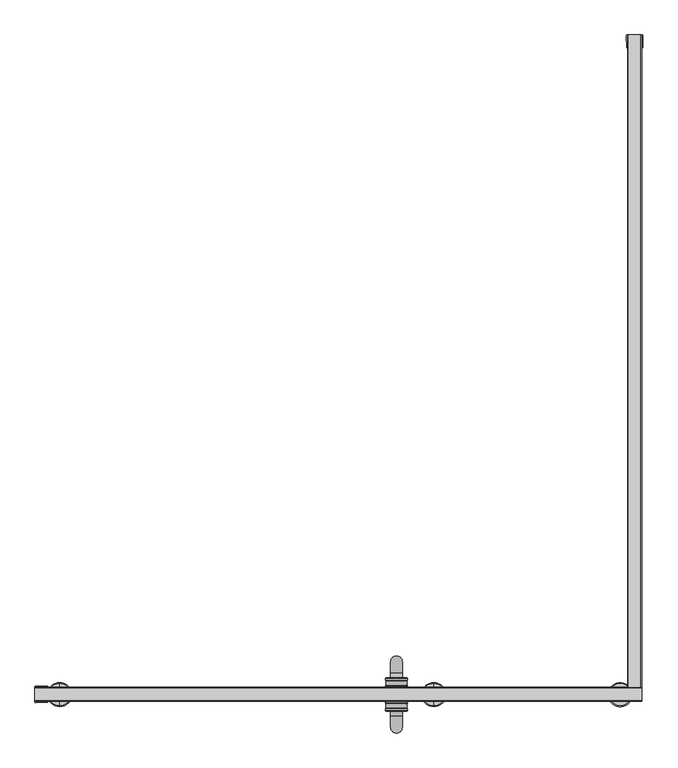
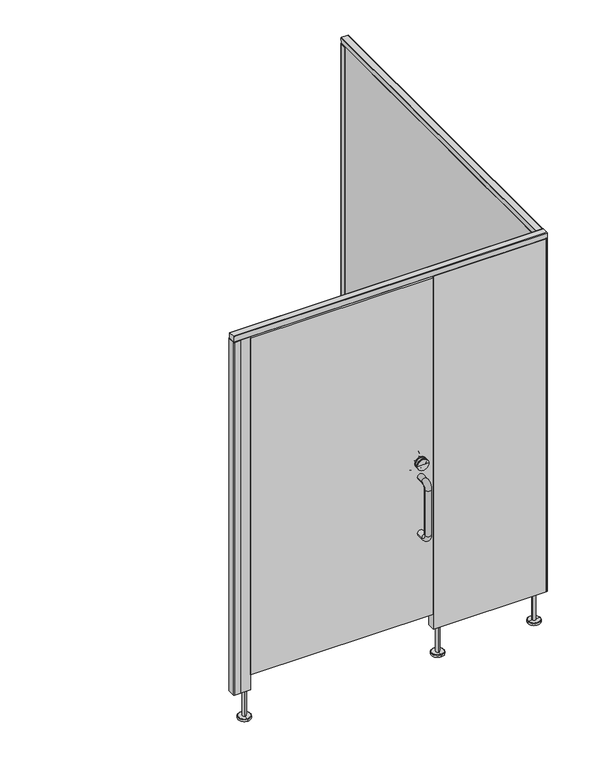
"""IFC4 building model written with IfcOpenShell, lengths in millimetres: proxy geometry, Partition_EuroStyle-Bradley_Corp-ADA-STD_Stall_-LOFT : Partition_EuroStyle-Bradley_Corp-ADA-STD_Stall_-LOFT."""

from ifc_helpers import new_model, si_unit, point, frame, frame_2d, origin, place, context, project, spatial, polyline, circle_curve, ellipse_curve, trimmed, segment, composite_curve, outline, extrude, source, transform, mapped, element, save
from ifc_brep_helpers import plane_surface, cylinder_surface, revolved_surface, advanced_brep


def specialty_equipment_e34e834b(model_context):
    return source(origin(), model_context, "Body", "SolidModel", [
        advanced_brep(
        [(1368.9703255, -1694.3996549, 150.0000008), (1386.9703248, -1694.3996549, 150.0000008), (1386.9703248, -1694.3996549, 12.0000001), (1368.9703255, -1694.3996549, 12.0000001), (1377.9703251, -1694.3996549, 150.0000008), (1346.9703262, -1694.3996549, 0.0), (1408.9703241, -1694.3996549, 0.0), (1377.9703251, -1694.3996549, 0.0), (1346.9703262, -1694.3996549, 10.0000001), (1408.9703241, -1694.3996549, 10.0000001), (1348.9727381, -1694.3996549, 12.0000001), (1406.9679122, -1694.3996549, 12.0000001)],
        [
            (0, 1, circle_curve(frame((1377.9703251, -1694.3996549, 150.0000008), z_axis=(0.0, 0.0, -1.0), x_axis=(1.0, 0.0, 0.0)), 8.9999997)),
            (1, 2),
            (2, 3, circle_curve(frame((1377.9703251, -1694.3996549, 12.0000001), z_axis=(0.0, 0.0, 1.0), x_axis=(1.0, 0.0, 0.0)), 8.9999997)),
            (3, 0),
            (1, 0, circle_curve(frame((1377.9703251, -1694.3996549, 150.0000008), z_axis=(0.0, 0.0, -1.0), x_axis=(1.0, 0.0, 0.0)), 8.9999997)),
            (3, 2, circle_curve(frame((1377.9703251, -1694.3996549, 12.0000001), z_axis=(0.0, 0.0, 1.0), x_axis=(1.0, 0.0, 0.0)), 8.9999997)),
            (4, 1),
            (0, 4),
            (5, 6, circle_curve(frame((1377.9703251, -1694.3996549, 0.0), z_axis=(0.0, 0.0, -1.0), x_axis=(1.0, 0.0, 0.0)), 30.9999989)),
            (6, 7),
            (7, 5),
            (6, 5, circle_curve(frame((1377.9703251, -1694.3996549, 0.0), z_axis=(0.0, 0.0, -1.0), x_axis=(1.0, 0.0, 0.0)), 30.9999989)),
            (8, 9, circle_curve(frame((1377.9703251, -1694.3996549, 10.0000001), z_axis=(0.0, 0.0, -1.0), x_axis=(1.0, 0.0, 0.0)), 30.9999989)),
            (9, 6),
            (5, 8),
            (9, 8, circle_curve(frame((1377.9703251, -1694.3996549, 10.0000001), z_axis=(0.0, 0.0, -1.0), x_axis=(1.0, 0.0, 0.0)), 30.9999989)),
            (10, 11, circle_curve(frame((1377.9703251, -1694.3996549, 12.0000001), z_axis=(0.0, 0.0, -1.0), x_axis=(1.0, 0.0, 0.0)), 28.997587)),
            (11, 9),
            (8, 10),
            (11, 10, circle_curve(frame((1377.9703251, -1694.3996549, 12.0000001), z_axis=(0.0, 0.0, -1.0), x_axis=(1.0, 0.0, 0.0)), 28.997587)),
            (2, 11),
            (10, 3),
        ],
        [
            cylinder_surface(frame((1377.9703251, -1694.3996549, 0.0), z_axis=(0.0, 0.0, 1.0), x_axis=(1.0, 0.0, 0.0)), 8.9999997),
            plane_surface(frame((1377.9703251, -1694.3996549, 150.0000008), z_axis=(0.0, 0.0, 1.0), x_axis=(1.0, 0.0, 0.0))),
            plane_surface(frame((1377.9703251, -1694.3996549, 0.0), z_axis=(0.0, 0.0, -1.0), x_axis=(1.0, 0.0, 0.0))),
            cylinder_surface(frame((1377.9703251, -1694.3996549, 0.0), z_axis=(0.0, 0.0, 1.0), x_axis=(1.0, 0.0, 0.0)), 30.9999989),
            revolved_surface(polyline([(1408.9703241, -1694.3996549, 10.0000001), (1406.9679122, -1694.3996549, 12.0000001)]), (1377.9703251, -1694.3996549, 0.0), (0.0, 0.0, 1.0)),
            plane_surface(frame((1377.9703251, -1694.3996549, 12.0000001), z_axis=(0.0, 0.0, 1.0), x_axis=(1.0, 0.0, 0.0))),
        ],
        [
            (0, [[1, 2, 3, 4]]),
            (0, [[5, -4, 6, -2]]),
            (1, [[7, -1, 8]]),
            (1, [[-8, -5, -7]]),
            (2, [[9, 10, 11]]),
            (2, [[12, -11, -10]]),
            (3, [[13, 14, -9, 15]]),
            (3, [[16, -15, -12, -14]]),
            (4, [[17, 18, -13, 19]]),
            (4, [[20, -19, -16, -18]]),
            (5, [[-3, 21, -17, 22]]),
            (5, [[-6, -22, -20, -21]]),
        ],
    ),
        advanced_brep(
        [(787.6, -1676.4, 975.0), (817.6, -1676.4, 975.0), (787.6, -1676.4, 679.0), (817.6, -1676.4, 679.0), (817.6, -1640.4, 975.0), (787.6, -1640.4, 975.0), (817.6, -1610.4, 945.0), (817.6, -1610.4, 709.0), (787.6, -1610.4, 709.0), (787.6, -1610.4, 945.0), (817.6, -1640.4, 679.0), (787.6, -1640.4, 679.0)],
        [
            (0, 1, circle_curve(frame((802.6, -1676.4, 975.0), z_axis=(0.0, -1.0, 0.0), x_axis=(1.0000000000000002, 0.0, 0.0)), 15.0)),
            (1, 0, circle_curve(frame((802.6, -1676.4, 975.0), z_axis=(0.0, -1.0, 0.0), x_axis=(1.0000000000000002, 0.0, 0.0)), 15.0)),
            (2, 3, circle_curve(frame((802.6, -1676.4, 679.0), z_axis=(0.0, -1.0, 0.0), x_axis=(1.0000000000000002, 0.0, 0.0)), 15.0)),
            (3, 2, circle_curve(frame((802.6, -1676.4, 679.0), z_axis=(0.0, -1.0, 0.0), x_axis=(1.0000000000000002, 0.0, 0.0)), 15.0)),
            (1, 4),
            (4, 5, circle_curve(frame((802.6, -1640.4, 975.0), z_axis=(0.0, -1.0, 0.0), x_axis=(1.0000000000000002, 0.0, 0.0)), 15.0)),
            (5, 0),
            (5, 4, circle_curve(frame((802.6, -1640.4, 975.0), z_axis=(0.0, -1.0, 0.0), x_axis=(1.0000000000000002, 0.0, 0.0)), 15.0)),
            (6, 7),
            (7, 8, circle_curve(frame((802.6, -1610.4, 709.0), z_axis=(0.0, 0.0, 1.0), x_axis=(1.0000000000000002, 0.0, 0.0)), 15.0)),
            (8, 9),
            (9, 6, circle_curve(frame((802.6, -1610.4, 945.0), z_axis=(0.0, 0.0, -1.0), x_axis=(1.0000000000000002, 0.0, 0.0)), 15.0)),
            (8, 7, circle_curve(frame((802.6, -1610.4, 709.0), z_axis=(0.0, 0.0, 1.0), x_axis=(1.0000000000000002, 0.0, 0.0)), 15.0)),
            (6, 9, circle_curve(frame((802.6, -1610.4, 945.0), z_axis=(0.0, 0.0, -1.0), x_axis=(1.0000000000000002, 0.0, 0.0)), 15.0)),
            (10, 3),
            (2, 11),
            (11, 10, circle_curve(frame((802.6, -1640.4, 679.0), z_axis=(0.0, -1.0, 0.0), x_axis=(1.0000000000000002, 0.0, 0.0)), 15.0)),
            (10, 11, circle_curve(frame((802.6, -1640.4, 679.0), z_axis=(0.0, -1.0, 0.0), x_axis=(1.0000000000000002, 0.0, 0.0)), 15.0)),
            (9, 5, circle_curve(frame((787.6, -1640.4, 945.0), z_axis=(1.0, 0.0, 0.0), x_axis=(0.0, 0.0, 1.0)), 30.0)),
            (4, 6, circle_curve(frame((817.6, -1640.4, 945.0), z_axis=(-1.0, 0.0, 0.0), x_axis=(0.0, 0.0, 1.0)), 30.0)),
            (11, 8, circle_curve(frame((787.6, -1640.4, 709.0), z_axis=(1.0, 0.0, 0.0), x_axis=(0.0, 1.0000000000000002, 0.0)), 30.0)),
            (7, 10, circle_curve(frame((817.6, -1640.4, 709.0), z_axis=(-1.0, 0.0, 0.0), x_axis=(0.0, 1.0000000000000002, 0.0)), 30.0)),
        ],
        [
            plane_surface(frame((802.6, -1676.4, 975.0), z_axis=(0.0, -1.0, 0.0), x_axis=(1.0, 0.0, 0.0))),
            plane_surface(frame((802.6, -1676.4, 679.0), z_axis=(0.0, -1.0, 0.0), x_axis=(1.0, 0.0, 0.0))),
            cylinder_surface(frame((802.6, -1676.4, 975.0), z_axis=(0.0, -1.0000000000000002, 0.0), x_axis=(1.0000000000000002, 0.0, 0.0)), 15.0),
            cylinder_surface(frame((802.6, -1610.4, 945.0), z_axis=(0.0, 0.0, 1.0), x_axis=(1.0000000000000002, 0.0, 0.0)), 15.0),
            cylinder_surface(frame((802.6, -1640.4, 679.0), z_axis=(0.0, 1.0000000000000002, 0.0), x_axis=(1.0000000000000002, 0.0, 0.0)), 15.0),
            revolved_surface(trimmed(ellipse_curve(frame((802.6, -1640.4, 975.0), z_axis=(0.0, 1.0000000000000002, 0.0), x_axis=(1.0000000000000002, 0.0, 0.0)), 15.0, 15.0), [point((787.6, -1640.4, 975.0))], [point((817.6, -1640.4, 975.0))], True, "CARTESIAN"), (802.6, -1640.4, 945.0), (1.0000000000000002, 0.0, 0.0)),
            revolved_surface(trimmed(ellipse_curve(frame((802.6, -1640.4, 975.0), z_axis=(0.0, 1.0000000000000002, 0.0), x_axis=(1.0000000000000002, 0.0, 0.0)), 15.0, 15.0), [point((817.6, -1640.4, 975.0))], [point((787.6, -1640.4, 975.0))], True, "CARTESIAN"), (802.6, -1640.4, 945.0), (1.0000000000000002, 0.0, 0.0)),
            revolved_surface(trimmed(ellipse_curve(frame((802.6, -1610.4, 709.0), z_axis=(0.0, 0.0, -1.0), x_axis=(1.0000000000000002, 0.0, 0.0)), 15.0, 15.0), [point((787.6, -1610.4, 709.0))], [point((817.6, -1610.4, 709.0))], True, "CARTESIAN"), (802.6, -1640.4, 709.0), (1.0000000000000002, 0.0, 0.0)),
            revolved_surface(trimmed(ellipse_curve(frame((802.6, -1610.4, 709.0), z_axis=(0.0, 0.0, -1.0), x_axis=(1.0000000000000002, 0.0, 0.0)), 15.0, 15.0), [point((817.6, -1610.4, 709.0))], [point((787.6, -1610.4, 709.0))], True, "CARTESIAN"), (802.6, -1640.4, 709.0), (1.0000000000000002, 0.0, 0.0)),
        ],
        [
            (0, [[1, 2]]),
            (1, [[3, 4]]),
            (2, [[5, 6, 7, -2]]),
            (2, [[-7, 8, -5, -1]]),
            (3, [[9, 10, 11, 12]]),
            (3, [[-11, 13, -9, 14]]),
            (4, [[15, -3, 16, 17]]),
            (4, [[-16, -4, -15, 18]]),
            (5, [[-12, 19, -6, 20]]),
            (6, [[-14, -20, -8, -19]]),
            (7, [[-17, 21, -10, 22]]),
            (8, [[-18, -22, -13, -21]]),
        ],
    ),
        advanced_brep(
        [(787.6, -1712.4203251, 975.0), (817.6, -1712.4203251, 975.0), (787.6, -1712.4203251, 679.0), (817.6, -1712.4203251, 679.0), (787.6, -1748.4203251, 975.0), (817.6, -1748.4203251, 975.0), (817.6, -1778.4203251, 945.0), (787.6, -1778.4203251, 945.0), (787.6, -1778.4203251, 709.0), (817.6, -1778.4203251, 709.0), (817.6, -1748.4203251, 679.0), (787.6, -1748.4203251, 679.0)],
        [
            (0, 1, circle_curve(frame((802.6, -1712.4203251, 975.0), z_axis=(0.0, 1.0, 0.0), x_axis=(1.0000000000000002, 0.0, 0.0)), 15.0)),
            (1, 0, circle_curve(frame((802.6, -1712.4203251, 975.0), z_axis=(0.0, 1.0, 0.0), x_axis=(1.0000000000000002, 0.0, 0.0)), 15.0)),
            (2, 3, circle_curve(frame((802.6, -1712.4203251, 679.0), z_axis=(0.0, 1.0, 0.0), x_axis=(1.0000000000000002, 0.0, 0.0)), 15.0)),
            (3, 2, circle_curve(frame((802.6, -1712.4203251, 679.0), z_axis=(0.0, 1.0, 0.0), x_axis=(1.0000000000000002, 0.0, 0.0)), 15.0)),
            (0, 4),
            (4, 5, circle_curve(frame((802.6, -1748.4203251, 975.0), z_axis=(0.0, 1.0, 0.0), x_axis=(1.0000000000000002, 0.0, 0.0)), 15.0)),
            (5, 1),
            (5, 4, circle_curve(frame((802.6, -1748.4203251, 975.0), z_axis=(0.0, 1.0, 0.0), x_axis=(1.0000000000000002, 0.0, 0.0)), 15.0)),
            (6, 7, circle_curve(frame((802.6, -1778.4203251, 945.0), z_axis=(0.0, 0.0, -1.0), x_axis=(1.0000000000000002, 0.0, 0.0)), 15.0)),
            (7, 8),
            (8, 9, circle_curve(frame((802.6, -1778.4203251, 709.0), z_axis=(0.0, 0.0, 1.0), x_axis=(1.0000000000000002, 0.0, 0.0)), 15.0)),
            (9, 6),
            (7, 6, circle_curve(frame((802.6, -1778.4203251, 945.0), z_axis=(0.0, 0.0, -1.0), x_axis=(1.0000000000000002, 0.0, 0.0)), 15.0)),
            (9, 8, circle_curve(frame((802.6, -1778.4203251, 709.0), z_axis=(0.0, 0.0, 1.0), x_axis=(1.0000000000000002, 0.0, 0.0)), 15.0)),
            (10, 11, circle_curve(frame((802.6, -1748.4203251, 679.0), z_axis=(0.0, 1.0, 0.0), x_axis=(1.0000000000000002, 0.0, 0.0)), 15.0)),
            (11, 2),
            (3, 10),
            (11, 10, circle_curve(frame((802.6, -1748.4203251, 679.0), z_axis=(0.0, 1.0, 0.0), x_axis=(1.0000000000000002, 0.0, 0.0)), 15.0)),
            (6, 5, circle_curve(frame((817.6, -1748.4203251, 945.0), z_axis=(-1.0, 0.0, 0.0), x_axis=(0.0, 0.0, 1.0)), 30.0)),
            (4, 7, circle_curve(frame((787.6, -1748.4203251, 945.0), z_axis=(1.0, 0.0, 0.0), x_axis=(0.0, 0.0, 1.0)), 30.0)),
            (10, 9, circle_curve(frame((817.6, -1748.4203251, 709.0), z_axis=(-1.0, 0.0, 0.0), x_axis=(0.0, -1.0000000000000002, 0.0)), 30.0)),
            (8, 11, circle_curve(frame((787.6, -1748.4203251, 709.0), z_axis=(1.0, 0.0, 0.0), x_axis=(0.0, -1.0000000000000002, 0.0)), 30.0)),
        ],
        [
            plane_surface(frame((802.6, -1712.4203251, 975.0), z_axis=(0.0, 1.0, 0.0), x_axis=(1.0, 0.0, 0.0))),
            plane_surface(frame((802.6, -1712.4203251, 679.0), z_axis=(0.0, 1.0, 0.0), x_axis=(1.0, 0.0, 0.0))),
            cylinder_surface(frame((802.6, -1712.4203251, 975.0), z_axis=(0.0, 1.0000000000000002, 0.0), x_axis=(1.0000000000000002, 0.0, 0.0)), 15.0),
            cylinder_surface(frame((802.6, -1778.4203251, 945.0), z_axis=(0.0, 0.0, 1.0), x_axis=(1.0000000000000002, 0.0, 0.0)), 15.0),
            cylinder_surface(frame((802.6, -1748.4203251, 679.0), z_axis=(0.0, -1.0000000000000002, 0.0), x_axis=(1.0000000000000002, 0.0, 0.0)), 15.0),
            revolved_surface(trimmed(ellipse_curve(frame((802.6, -1748.4203251, 975.0), z_axis=(0.0, 1.0000000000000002, 0.0), x_axis=(1.0000000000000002, 0.0, 0.0)), 15.0, 15.0), [point((787.6, -1748.4203251, 975.0))], [point((817.6, -1748.4203251, 975.0))], True, "CARTESIAN"), (802.6, -1748.4203251, 945.0), (1.0000000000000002, 0.0, 0.0)),
            revolved_surface(trimmed(ellipse_curve(frame((802.6, -1748.4203251, 975.0), z_axis=(0.0, 1.0000000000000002, 0.0), x_axis=(1.0000000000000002, 0.0, 0.0)), 15.0, 15.0), [point((817.6, -1748.4203251, 975.0))], [point((787.6, -1748.4203251, 975.0))], True, "CARTESIAN"), (802.6, -1748.4203251, 945.0), (1.0000000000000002, 0.0, 0.0)),
            revolved_surface(trimmed(ellipse_curve(frame((802.6, -1778.4203251, 709.0), z_axis=(0.0, 0.0, 1.0), x_axis=(1.0000000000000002, 0.0, 0.0)), 15.0, 15.0), [point((787.6, -1778.4203251, 709.0))], [point((817.6, -1778.4203251, 709.0))], True, "CARTESIAN"), (802.6, -1748.4203251, 709.0), (1.0000000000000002, 0.0, 0.0)),
            revolved_surface(trimmed(ellipse_curve(frame((802.6, -1778.4203251, 709.0), z_axis=(0.0, 0.0, 1.0), x_axis=(1.0000000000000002, 0.0, 0.0)), 15.0, 15.0), [point((817.6, -1778.4203251, 709.0))], [point((787.6, -1778.4203251, 709.0))], True, "CARTESIAN"), (802.6, -1748.4203251, 709.0), (1.0000000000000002, 0.0, 0.0)),
        ],
        [
            (0, [[1, 2]]),
            (1, [[3, 4]]),
            (2, [[-1, 5, 6, 7]]),
            (2, [[-2, -7, 8, -5]]),
            (3, [[9, 10, 11, 12]]),
            (3, [[13, -12, 14, -10]]),
            (4, [[15, 16, -4, 17]]),
            (4, [[18, -17, -3, -16]]),
            (5, [[19, -6, 20, -9]]),
            (6, [[-20, -8, -19, -13]]),
            (7, [[21, -11, 22, -15]]),
            (8, [[-22, -14, -21, -18]]),
        ],
    ),
        advanced_brep(
        [(774.025, -1676.4203251, 1050.0), (831.175, -1676.4203251, 1050.0), (802.6, -1676.4203251, 1050.0), (774.025, -1671.6578251, 1050.0), (831.175, -1671.6578251, 1050.0), (774.025, -1652.6078251, 1050.0), (831.175, -1652.6078251, 1050.0), (831.175, -1657.3703251, 1050.0), (774.025, -1657.3703251, 1050.0), (829.5875, -1658.9578251, 1050.0), (775.6125, -1658.9578251, 1050.0), (829.5875, -1670.0703251, 1050.0), (775.6125, -1670.0703251, 1050.0), (802.6, -1651.0203251, 1050.0)],
        [
            (0, 1, circle_curve(frame((802.6, -1676.4203251, 1050.0), z_axis=(0.0, -1.0, 0.0), x_axis=(1.0000000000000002, 0.0, 0.0)), 28.575)),
            (1, 2),
            (2, 0),
            (1, 0, circle_curve(frame((802.6, -1676.4203251, 1050.0), z_axis=(0.0, -1.0, 0.0), x_axis=(1.0000000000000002, 0.0, 0.0)), 28.575)),
            (3, 4, circle_curve(frame((802.6, -1671.6578251, 1050.0), z_axis=(0.0, -1.0, 0.0), x_axis=(1.0000000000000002, 0.0, 0.0)), 28.575)),
            (4, 1),
            (0, 3),
            (4, 3, circle_curve(frame((802.6, -1671.6578251, 1050.0), z_axis=(0.0, -1.0, 0.0), x_axis=(1.0000000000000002, 0.0, 0.0)), 28.575)),
            (5, 6, circle_curve(frame((802.6, -1652.6078251, 1050.0), z_axis=(0.0, -1.0, 0.0), x_axis=(1.0000000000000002, 0.0, 0.0)), 28.575)),
            (6, 7),
            (7, 8, circle_curve(frame((802.6, -1657.3703251, 1050.0), z_axis=(0.0, 1.0, 0.0), x_axis=(1.0000000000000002, 0.0, 0.0)), 28.575)),
            (8, 5),
            (6, 5, circle_curve(frame((802.6, -1652.6078251, 1050.0), z_axis=(0.0, -1.0, 0.0), x_axis=(1.0000000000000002, 0.0, 0.0)), 28.575)),
            (8, 7, circle_curve(frame((802.6, -1657.3703251, 1050.0), z_axis=(0.0, 1.0, 0.0), x_axis=(1.0000000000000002, 0.0, 0.0)), 28.575)),
            (7, 9, circle_curve(frame((831.175, -1658.9578251, 1050.0), z_axis=(0.0, 0.0, 1.0), x_axis=(1.0000000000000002, 0.0, 0.0)), 1.5875)),
            (9, 10, circle_curve(frame((802.6, -1658.9578251, 1050.0), z_axis=(0.0, 1.0, 0.0), x_axis=(1.0000000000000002, 0.0, 0.0)), 26.9875)),
            (10, 8, circle_curve(frame((774.025, -1658.9578251, 1050.0), z_axis=(0.0, 0.0, 1.0), x_axis=(-1.0000000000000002, 0.0, 0.0)), 1.5875)),
            (10, 9, circle_curve(frame((802.6, -1658.9578251, 1050.0), z_axis=(0.0, 1.0, 0.0), x_axis=(1.0000000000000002, 0.0, 0.0)), 26.9875)),
            (9, 11),
            (11, 12, circle_curve(frame((802.6, -1670.0703251, 1050.0), z_axis=(0.0, 1.0, 0.0), x_axis=(1.0000000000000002, 0.0, 0.0)), 26.9875)),
            (12, 10),
            (12, 11, circle_curve(frame((802.6, -1670.0703251, 1050.0), z_axis=(0.0, 1.0, 0.0), x_axis=(1.0000000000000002, 0.0, 0.0)), 26.9875)),
            (11, 4, circle_curve(frame((831.175, -1670.0703251, 1050.0), z_axis=(0.0, 0.0, 1.0), x_axis=(1.0000000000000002, 0.0, 0.0)), 1.5875)),
            (3, 12, circle_curve(frame((774.025, -1670.0703251, 1050.0), z_axis=(0.0, 0.0, 1.0), x_axis=(-1.0000000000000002, 0.0, 0.0)), 1.5875)),
            (13, 6, circle_curve(frame((806.2941234, -1842.4948544, 1050.0), z_axis=(0.0, 0.0, -1.0), x_axis=(1.0000000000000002, 0.0, 0.0)), 191.5101613)),
            (5, 13, circle_curve(frame((798.9058766, -1842.4948544, 1050.0), z_axis=(0.0, 0.0, -1.0), x_axis=(-1.0000000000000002, 0.0, 0.0)), 191.5101613)),
        ],
        [
            plane_surface(frame((802.6, -1676.4203251, 1050.0), z_axis=(0.0, -1.0, 0.0), x_axis=(1.0, 0.0, 0.0))),
            cylinder_surface(frame((802.6, -1676.4203251, 1050.0), z_axis=(0.0, 1.0000000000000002, 0.0), x_axis=(1.0000000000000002, 0.0, 0.0)), 28.575),
            revolved_surface(trimmed(ellipse_curve(frame((831.175, -1658.9578251, 1050.0), z_axis=(0.0, 0.0, -1.0), x_axis=(1.0000000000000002, 0.0, 0.0)), 1.5875, 1.5875), [point((829.5875, -1658.9578251, 1050.0))], [point((831.175, -1657.3703251, 1050.0))], True, "CARTESIAN"), (802.6, -1676.4203251, 1050.0), (0.0, 1.0000000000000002, 0.0)),
            cylinder_surface(frame((802.6, -1676.4203251, 1050.0), z_axis=(0.0, 1.0000000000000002, 0.0), x_axis=(1.0000000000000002, 0.0, 0.0)), 26.9875),
            revolved_surface(trimmed(ellipse_curve(frame((831.175, -1670.0703251, 1050.0), z_axis=(0.0, 0.0, -1.0), x_axis=(1.0000000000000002, 0.0, 0.0)), 1.5875, 1.5875), [point((831.175, -1671.6578251, 1050.0))], [point((829.5875, -1670.0703251, 1050.0))], True, "CARTESIAN"), (802.6, -1676.4203251, 1050.0), (0.0, 1.0000000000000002, 0.0)),
            revolved_surface(trimmed(ellipse_curve(frame((806.2941234, -1842.4948544, 1050.0), z_axis=(0.0, 0.0, 1.0), x_axis=(1.0000000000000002, 0.0, 0.0)), 191.5101613, 191.5101613), [point((831.175, -1652.6078251, 1050.0))], [point((802.6, -1651.0203251, 1050.0))], True, "CARTESIAN"), (802.6, -1676.4203251, 1050.0), (0.0, 1.0000000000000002, 0.0)),
        ],
        [
            (0, [[1, 2, 3]]),
            (0, [[4, -3, -2]]),
            (1, [[5, 6, -1, 7]]),
            (1, [[8, -7, -4, -6]]),
            (1, [[9, 10, 11, 12]]),
            (1, [[13, -12, 14, -10]]),
            (2, [[-11, 15, 16, 17]]),
            (2, [[-14, -17, 18, -15]]),
            (3, [[-16, 19, 20, 21]]),
            (3, [[-18, -21, 22, -19]]),
            (4, [[-20, 23, -5, 24]]),
            (4, [[-22, -24, -8, -23]]),
            (5, [[25, -9, 26]]),
            (5, [[-26, -13, -25]]),
        ],
    ),
        advanced_brep(
        [(802.6, -1712.4203251, 1050.0), (831.175, -1712.4203251, 1050.0), (774.025, -1712.4203251, 1050.0), (831.175, -1717.1828251, 1050.0), (774.025, -1717.1828251, 1050.0), (774.025, -1731.4703251, 1050.0), (831.175, -1731.4703251, 1050.0), (831.175, -1736.2328251, 1050.0), (774.025, -1736.2328251, 1050.0), (775.6125, -1729.8828251, 1050.0), (829.5875, -1729.8828251, 1050.0), (775.6125, -1718.7703251, 1050.0), (829.5875, -1718.7703251, 1050.0), (802.6, -1737.8203251, 1050.0)],
        [
            (0, 1),
            (1, 2, circle_curve(frame((802.6, -1712.4203251, 1050.0), z_axis=(0.0, 1.0, 0.0), x_axis=(1.0000000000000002, 0.0, 0.0)), 28.575)),
            (2, 0),
            (2, 1, circle_curve(frame((802.6, -1712.4203251, 1050.0), z_axis=(0.0, 1.0, 0.0), x_axis=(1.0000000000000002, 0.0, 0.0)), 28.575)),
            (1, 3),
            (3, 4, circle_curve(frame((802.6, -1717.1828251, 1050.0), z_axis=(0.0, 1.0, 0.0), x_axis=(1.0000000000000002, 0.0, 0.0)), 28.575)),
            (4, 2),
            (4, 3, circle_curve(frame((802.6, -1717.1828251, 1050.0), z_axis=(0.0, 1.0, 0.0), x_axis=(1.0000000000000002, 0.0, 0.0)), 28.575)),
            (5, 6, circle_curve(frame((802.6, -1731.4703251, 1050.0), z_axis=(0.0, -1.0, 0.0), x_axis=(1.0000000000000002, 0.0, 0.0)), 28.575)),
            (6, 7),
            (7, 8, circle_curve(frame((802.6, -1736.2328251, 1050.0), z_axis=(0.0, 1.0, 0.0), x_axis=(1.0000000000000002, 0.0, 0.0)), 28.575)),
            (8, 5),
            (6, 5, circle_curve(frame((802.6, -1731.4703251, 1050.0), z_axis=(0.0, -1.0, 0.0), x_axis=(1.0000000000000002, 0.0, 0.0)), 28.575)),
            (8, 7, circle_curve(frame((802.6, -1736.2328251, 1050.0), z_axis=(0.0, 1.0, 0.0), x_axis=(1.0000000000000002, 0.0, 0.0)), 28.575)),
            (9, 10, circle_curve(frame((802.6, -1729.8828251, 1050.0), z_axis=(0.0, -1.0, 0.0), x_axis=(1.0000000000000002, 0.0, 0.0)), 26.9875)),
            (10, 6, circle_curve(frame((831.175, -1729.8828251, 1050.0), z_axis=(0.0, 0.0, 1.0), x_axis=(1.0000000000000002, 0.0, 0.0)), 1.5875)),
            (5, 9, circle_curve(frame((774.025, -1729.8828251, 1050.0), z_axis=(0.0, 0.0, 1.0), x_axis=(-1.0000000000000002, 0.0, 0.0)), 1.5875)),
            (10, 9, circle_curve(frame((802.6, -1729.8828251, 1050.0), z_axis=(0.0, -1.0, 0.0), x_axis=(1.0000000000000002, 0.0, 0.0)), 26.9875)),
            (11, 12, circle_curve(frame((802.6, -1718.7703251, 1050.0), z_axis=(0.0, -1.0, 0.0), x_axis=(1.0000000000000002, 0.0, 0.0)), 26.9875)),
            (12, 10),
            (9, 11),
            (12, 11, circle_curve(frame((802.6, -1718.7703251, 1050.0), z_axis=(0.0, -1.0, 0.0), x_axis=(1.0000000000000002, 0.0, 0.0)), 26.9875)),
            (3, 12, circle_curve(frame((831.175, -1718.7703251, 1050.0), z_axis=(0.0, 0.0, 1.0), x_axis=(1.0000000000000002, 0.0, 0.0)), 1.5875)),
            (11, 4, circle_curve(frame((774.025, -1718.7703251, 1050.0), z_axis=(0.0, 0.0, 1.0), x_axis=(-1.0000000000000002, 0.0, 0.0)), 1.5875)),
            (7, 13, circle_curve(frame((806.2941234, -1546.3457959, 1050.0), z_axis=(0.0, 0.0, -1.0), x_axis=(1.0000000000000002, 0.0, 0.0)), 191.5101613)),
            (13, 8, circle_curve(frame((798.9058766, -1546.3457959, 1050.0), z_axis=(0.0, 0.0, -1.0), x_axis=(-1.0000000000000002, 0.0, 0.0)), 191.5101613)),
        ],
        [
            plane_surface(frame((802.6, -1712.4203251, 1050.0), z_axis=(0.0, 1.0, 0.0), x_axis=(1.0, 0.0, 0.0))),
            cylinder_surface(frame((802.6, -1712.4203251, 1050.0), z_axis=(0.0, 1.0000000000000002, 0.0), x_axis=(1.0000000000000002, 0.0, 0.0)), 28.575),
            revolved_surface(trimmed(ellipse_curve(frame((831.175, -1729.8828251, 1050.0), z_axis=(0.0, 0.0, -1.0), x_axis=(1.0000000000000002, 0.0, 0.0)), 1.5875, 1.5875), [point((831.175, -1731.4703251, 1050.0))], [point((829.5875, -1729.8828251, 1050.0))], True, "CARTESIAN"), (802.6, -1712.4203251, 1050.0), (0.0, 1.0000000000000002, 0.0)),
            cylinder_surface(frame((802.6, -1712.4203251, 1050.0), z_axis=(0.0, 1.0000000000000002, 0.0), x_axis=(1.0000000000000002, 0.0, 0.0)), 26.9875),
            revolved_surface(trimmed(ellipse_curve(frame((831.175, -1718.7703251, 1050.0), z_axis=(0.0, 0.0, -1.0), x_axis=(1.0000000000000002, 0.0, 0.0)), 1.5875, 1.5875), [point((829.5875, -1718.7703251, 1050.0))], [point((831.175, -1717.1828251, 1050.0))], True, "CARTESIAN"), (802.6, -1712.4203251, 1050.0), (0.0, 1.0000000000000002, 0.0)),
            revolved_surface(trimmed(ellipse_curve(frame((806.2941234, -1546.3457959, 1050.0), z_axis=(0.0, 0.0, 1.0), x_axis=(1.0000000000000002, 0.0, 0.0)), 191.5101613, 191.5101613), [point((802.6, -1737.8203251, 1050.0))], [point((831.175, -1736.2328251, 1050.0))], True, "CARTESIAN"), (802.6, -1712.4203251, 1050.0), (0.0, 1.0000000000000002, 0.0)),
        ],
        [
            (0, [[1, 2, 3]]),
            (0, [[-3, 4, -1]]),
            (1, [[-2, 5, 6, 7]]),
            (1, [[-4, -7, 8, -5]]),
            (1, [[9, 10, 11, 12]]),
            (1, [[13, -12, 14, -10]]),
            (2, [[15, 16, -9, 17]]),
            (2, [[18, -17, -13, -16]]),
            (3, [[19, 20, -15, 21]]),
            (3, [[22, -21, -18, -20]]),
            (4, [[-6, 23, -19, 24]]),
            (4, [[-8, -24, -22, -23]]),
            (5, [[-11, 25, 26]]),
            (5, [[-14, -26, -25]]),
        ],
    ),
        extrude(outline(polyline([(-43.0032348, -1676.4), (866.1, -1676.4), (866.1, -1712.4203251), (-43.0032348, -1712.4203251), (-43.0032348, -1676.4)])), frame((0.0, 0.0, 228.6), z_axis=(0.0, 0.0, 1.0), x_axis=(1.0, 0.0, 0.0)), (0.0, 0.0, 1.0), 1767.4),
        advanced_brep(
        [(-63.5018313, -1685.4101629, 150.0000008), (-63.5018313, -1703.4101623, 150.0000008), (-63.5018313, -1703.4101623, 12.0000001), (-63.5018313, -1685.4101629, 12.0000001), (-63.5018313, -1694.4101626, 150.0000008), (-63.5018313, -1663.4101636, 0.0), (-63.5018313, -1725.4101615, 0.0), (-63.5018313, -1694.4101626, 0.0), (-63.5018313, -1663.4101636, 10.0000001), (-63.5018313, -1725.4101615, 10.0000001), (-63.5018313, -1665.4125756, 12.0000001), (-63.5018313, -1723.4077496, 12.0000001)],
        [
            (0, 1, circle_curve(frame((-63.5018313, -1694.4101626, 150.0000008), z_axis=(0.0, 0.0, -1.0), x_axis=(0.0, -1.0, 0.0)), 8.9999997)),
            (1, 2),
            (2, 3, circle_curve(frame((-63.5018313, -1694.4101626, 12.0000001), z_axis=(0.0, 0.0, 1.0), x_axis=(0.0, -1.0, 0.0)), 8.9999997)),
            (3, 0),
            (1, 0, circle_curve(frame((-63.5018313, -1694.4101626, 150.0000008), z_axis=(0.0, 0.0, -1.0), x_axis=(0.0, -1.0, 0.0)), 8.9999997)),
            (3, 2, circle_curve(frame((-63.5018313, -1694.4101626, 12.0000001), z_axis=(0.0, 0.0, 1.0), x_axis=(0.0, -1.0, 0.0)), 8.9999997)),
            (4, 1),
            (0, 4),
            (5, 6, circle_curve(frame((-63.5018313, -1694.4101626, 0.0), z_axis=(0.0, 0.0, -1.0), x_axis=(0.0, -1.0, 0.0)), 30.9999989)),
            (6, 7),
            (7, 5),
            (6, 5, circle_curve(frame((-63.5018313, -1694.4101626, 0.0), z_axis=(0.0, 0.0, -1.0), x_axis=(0.0, -1.0, 0.0)), 30.9999989)),
            (8, 9, circle_curve(frame((-63.5018313, -1694.4101626, 10.0000001), z_axis=(0.0, 0.0, -1.0), x_axis=(0.0, -1.0, 0.0)), 30.9999989)),
            (9, 6),
            (5, 8),
            (9, 8, circle_curve(frame((-63.5018313, -1694.4101626, 10.0000001), z_axis=(0.0, 0.0, -1.0), x_axis=(0.0, -1.0, 0.0)), 30.9999989)),
            (10, 11, circle_curve(frame((-63.5018313, -1694.4101626, 12.0000001), z_axis=(0.0, 0.0, -1.0), x_axis=(0.0, -1.0, 0.0)), 28.997587)),
            (11, 9),
            (8, 10),
            (11, 10, circle_curve(frame((-63.5018313, -1694.4101626, 12.0000001), z_axis=(0.0, 0.0, -1.0), x_axis=(0.0, -1.0, 0.0)), 28.997587)),
            (2, 11),
            (10, 3),
        ],
        [
            cylinder_surface(frame((-63.5018313, -1694.4101626, 0.0), z_axis=(0.0, 0.0, 1.0), x_axis=(0.0, -1.0, 0.0)), 8.9999997),
            plane_surface(frame((-63.5018313, -1694.4101626, 150.0000008), z_axis=(0.0, 0.0, 1.0), x_axis=(0.0, -1.0, 0.0))),
            plane_surface(frame((-63.5018313, -1694.4101626, 0.0), z_axis=(0.0, 0.0, -1.0), x_axis=(0.0, -1.0, 0.0))),
            cylinder_surface(frame((-63.5018313, -1694.4101626, 0.0), z_axis=(0.0, 0.0, 1.0), x_axis=(0.0, -1.0, 0.0)), 30.9999989),
            revolved_surface(polyline([(-63.5018313, -1725.4101615, 10.0000001), (-63.5018313, -1723.4077496, 12.0000001)]), (-63.5018313, -1694.4101626, 0.0), (0.0, 0.0, 1.0)),
            plane_surface(frame((-63.5018313, -1694.4101626, 12.0000001), z_axis=(0.0, 0.0, 1.0), x_axis=(0.0, -1.0, 0.0))),
        ],
        [
            (0, [[1, 2, 3, 4]]),
            (0, [[5, -4, 6, -2]]),
            (1, [[7, -1, 8]]),
            (1, [[-8, -5, -7]]),
            (2, [[9, 10, 11]]),
            (2, [[12, -11, -10]]),
            (3, [[13, 14, -9, 15]]),
            (3, [[16, -15, -12, -14]]),
            (4, [[17, 18, -13, 19]]),
            (4, [[20, -19, -16, -18]]),
            (5, [[-3, 21, -17, 22]]),
            (5, [[-6, -22, -20, -21]]),
        ],
    ),
        extrude(outline(composite_curve([segment(polyline([(-94.4999998, -1673.918717), (-94.4999998, -1675.4173026)]), True, "CONTINUOUS"), segment(trimmed(circle_curve(frame_2d((-95.4990918, -1675.4137352)), 0.9990984), [point((-94.4999998, -1675.4173026))], [point((-96.3787798, -1675.8873879))], False, "CARTESIAN"), True, "CONTINUOUS"), segment(polyline([(-96.3787798, -1675.8873879), (-103.6424298, -1675.7662779)]), True, "CONTINUOUS"), segment(trimmed(circle_curve(frame_2d((-104.4999449, -1675.248732)), 1.0015917), [point((-103.6424298, -1675.7662779))], [point((-105.3742398, -1675.7373979))], False, "CARTESIAN"), True, "CONTINUOUS"), segment(polyline([(-105.3742398, -1675.7373979), (-123.0104531, -1675.4433424)]), True, "CONTINUOUS"), segment(trimmed(circle_curve(frame_2d((-122.9997796, -1677.4435342)), 2.0002204), [point((-123.0104531, -1675.4433424))], [point((-125.0, -1677.4435342))], True, "CARTESIAN"), True, "CONTINUOUS"), segment(polyline([(-125.0, -1677.4435342), (-125.0, -1711.3278332)]), True, "CONTINUOUS"), segment(trimmed(circle_curve(frame_2d((-123.0009061, -1711.3768528)), 1.9996948), [point((-125.0, -1711.3278332))], [point((-123.0, -1713.3765475))], True, "CARTESIAN"), True, "CONTINUOUS"), segment(polyline([(-123.0, -1713.3765475), (-105.3739987, -1713.0824961)]), True, "CONTINUOUS"), segment(trimmed(circle_curve(frame_2d((-104.4999449, -1713.5715932)), 1.0015917), [point((-105.3739987, -1713.0824961))], [point((-103.6424298, -1713.0540473))], False, "CARTESIAN"), True, "CONTINUOUS"), segment(polyline([(-103.6424298, -1713.0540473), (-96.3787798, -1712.9329373)]), True, "CONTINUOUS"), segment(trimmed(circle_curve(frame_2d((-95.4990918, -1713.4065899)), 0.9990984), [point((-96.3787798, -1712.9329373))], [point((-94.4999998, -1713.4030225))], False, "CARTESIAN"), True, "CONTINUOUS"), segment(polyline([(-94.4999998, -1713.4030225), (-94.4999998, -1714.9016081), (-124.97082, -1715.4099473)]), True, "CONTINUOUS"), segment(trimmed(circle_curve(frame_2d((-124.97082, -1713.3807672)), 2.02918), [point((-124.97082, -1715.4099473))], [point((-127.0, -1713.3807672))], False, "CARTESIAN"), True, "CONTINUOUS"), segment(polyline([(-127.0, -1713.3807672), (-127.0, -1675.4395579)]), True, "CONTINUOUS"), segment(trimmed(circle_curve(frame_2d((-124.97082, -1675.4395579)), 2.02918), [point((-127.0, -1675.4395579))], [point((-124.97082, -1673.4103779))], False, "CARTESIAN"), True, "CONTINUOUS"), segment(polyline([(-124.97082, -1673.4103779), (-94.4999998, -1673.918717)]), True, "CONTINUOUS")], self_intersect=False)), frame((0.0, 0.0, 150.0), z_axis=(0.0, 0.0, 1.0), x_axis=(1.0, 0.0, 0.0)), (0.0, 0.0, 1.0), 1855.0),
        extrude(outline(polyline([(-117.000072, -1676.4), (-43.0032348, -1676.4), (-43.0032348, -1712.4203251), (-117.000072, -1712.4203251), (-117.000072, -1676.4)])), frame((0.0, 0.0, 150.0), z_axis=(0.0, 0.0, 1.0), x_axis=(1.0, 0.0, 0.0)), (0.0, 0.0, 1.0), 1855.0),
        advanced_brep(
        [(898.5233172, -1685.3996552, 150.0000008), (898.5233172, -1703.3996545, 150.0000008), (898.5233172, -1703.3996545, 12.0000001), (898.5233172, -1685.3996552, 12.0000001), (898.5233172, -1694.3996549, 150.0000008), (898.5233172, -1663.3996559, 0.0), (898.5233172, -1725.3996538, 0.0), (898.5233172, -1694.3996549, 0.0), (898.5233172, -1663.3996559, 10.0000001), (898.5233172, -1725.3996538, 10.0000001), (898.5233172, -1665.4020678, 12.0000001), (898.5233172, -1723.3972419, 12.0000001)],
        [
            (0, 1, circle_curve(frame((898.5233172, -1694.3996549, 150.0000008), z_axis=(0.0, 0.0, -1.0), x_axis=(0.0, -1.0, 0.0)), 8.9999997)),
            (1, 2),
            (2, 3, circle_curve(frame((898.5233172, -1694.3996549, 12.0000001), z_axis=(0.0, 0.0, 1.0), x_axis=(0.0, -1.0, 0.0)), 8.9999997)),
            (3, 0),
            (1, 0, circle_curve(frame((898.5233172, -1694.3996549, 150.0000008), z_axis=(0.0, 0.0, -1.0), x_axis=(0.0, -1.0, 0.0)), 8.9999997)),
            (3, 2, circle_curve(frame((898.5233172, -1694.3996549, 12.0000001), z_axis=(0.0, 0.0, 1.0), x_axis=(0.0, -1.0, 0.0)), 8.9999997)),
            (4, 1),
            (0, 4),
            (5, 6, circle_curve(frame((898.5233172, -1694.3996549, 0.0), z_axis=(0.0, 0.0, -1.0), x_axis=(0.0, -1.0, 0.0)), 30.9999989)),
            (6, 7),
            (7, 5),
            (6, 5, circle_curve(frame((898.5233172, -1694.3996549, 0.0), z_axis=(0.0, 0.0, -1.0), x_axis=(0.0, -1.0, 0.0)), 30.9999989)),
            (8, 9, circle_curve(frame((898.5233172, -1694.3996549, 10.0000001), z_axis=(0.0, 0.0, -1.0), x_axis=(0.0, -1.0, 0.0)), 30.9999989)),
            (9, 6),
            (5, 8),
            (9, 8, circle_curve(frame((898.5233172, -1694.3996549, 10.0000001), z_axis=(0.0, 0.0, -1.0), x_axis=(0.0, -1.0, 0.0)), 30.9999989)),
            (10, 11, circle_curve(frame((898.5233172, -1694.3996549, 12.0000001), z_axis=(0.0, 0.0, -1.0), x_axis=(0.0, -1.0, 0.0)), 28.997587)),
            (11, 9),
            (8, 10),
            (11, 10, circle_curve(frame((898.5233172, -1694.3996549, 12.0000001), z_axis=(0.0, 0.0, -1.0), x_axis=(0.0, -1.0, 0.0)), 28.997587)),
            (2, 11),
            (10, 3),
        ],
        [
            cylinder_surface(frame((898.5233172, -1694.3996549, 0.0), z_axis=(0.0, 0.0, 1.0), x_axis=(0.0, -1.0, 0.0)), 8.9999997),
            plane_surface(frame((898.5233172, -1694.3996549, 150.0000008), z_axis=(0.0, 0.0, 1.0), x_axis=(0.0, -1.0, 0.0))),
            plane_surface(frame((898.5233172, -1694.3996549, 0.0), z_axis=(0.0, 0.0, -1.0), x_axis=(0.0, -1.0, 0.0))),
            cylinder_surface(frame((898.5233172, -1694.3996549, 0.0), z_axis=(0.0, 0.0, 1.0), x_axis=(0.0, -1.0, 0.0)), 30.9999989),
            revolved_surface(polyline([(898.5233172, -1725.3996538, 10.0000001), (898.5233172, -1723.3972419, 12.0000001)]), (898.5233172, -1694.3996549, 0.0), (0.0, 0.0, 1.0)),
            plane_surface(frame((898.5233172, -1694.3996549, 12.0000001), z_axis=(0.0, 0.0, 1.0), x_axis=(0.0, -1.0, 0.0))),
        ],
        [
            (0, [[1, 2, 3, 4]]),
            (0, [[5, -4, 6, -2]]),
            (1, [[7, -1, 8]]),
            (1, [[-8, -5, -7]]),
            (2, [[9, 10, 11]]),
            (2, [[12, -11, -10]]),
            (3, [[13, 14, -9, 15]]),
            (3, [[16, -15, -12, -14]]),
            (4, [[17, 18, -13, 19]]),
            (4, [[20, -19, -16, -18]]),
            (5, [[-3, 21, -17, 22]]),
            (5, [[-6, -22, -20, -21]]),
        ],
    ),
        extrude(outline(composite_curve([segment(polyline([(1394.518717, -32.5000002), (1394.0103779, -2.02918)]), True, "CONTINUOUS"), segment(trimmed(circle_curve(frame_2d((1396.0395579, -2.02918)), 2.02918), [point((1394.0103779, -2.02918))], [point((1396.0395579, 0.0))], False, "CARTESIAN"), True, "CONTINUOUS"), segment(polyline([(1396.0395579, 0.0), (1433.9807672, 0.0)]), True, "CONTINUOUS"), segment(trimmed(circle_curve(frame_2d((1433.9807672, -2.02918)), 2.02918), [point((1433.9807672, 0.0))], [point((1436.0099473, -2.02918))], False, "CARTESIAN"), True, "CONTINUOUS"), segment(polyline([(1436.0099473, -2.02918), (1435.5016081, -32.5000002), (1434.0030225, -32.5000002)]), True, "CONTINUOUS"), segment(trimmed(circle_curve(frame_2d((1434.0065899, -31.5009082)), 0.9990984), [point((1434.0030225, -32.5000002))], [point((1433.5329373, -30.6212202))], False, "CARTESIAN"), True, "CONTINUOUS"), segment(polyline([(1433.5329373, -30.6212202), (1433.6540473, -23.3575702)]), True, "CONTINUOUS"), segment(trimmed(circle_curve(frame_2d((1434.1715932, -22.5000551)), 1.0015917), [point((1433.6540473, -23.3575702))], [point((1433.6824961, -21.6260013))], False, "CARTESIAN"), True, "CONTINUOUS"), segment(polyline([(1433.6824961, -21.6260013), (1433.9765475, -4.0)]), True, "CONTINUOUS"), segment(trimmed(circle_curve(frame_2d((1431.9768528, -3.9990939)), 1.9996948), [point((1433.9765475, -4.0))], [point((1431.9278332, -2.0))], True, "CARTESIAN"), True, "CONTINUOUS"), segment(polyline([(1431.9278332, -2.0), (1398.0435342, -2.0)]), True, "CONTINUOUS"), segment(trimmed(circle_curve(frame_2d((1398.0435342, -4.0002204)), 2.0002204), [point((1398.0435342, -2.0))], [point((1396.0433424, -3.9895469))], True, "CARTESIAN"), True, "CONTINUOUS"), segment(polyline([(1396.0433424, -3.9895469), (1396.3373979, -21.6257602)]), True, "CONTINUOUS"), segment(trimmed(circle_curve(frame_2d((1395.848732, -22.5000551)), 1.0015917), [point((1396.3373979, -21.6257602))], [point((1396.3662779, -23.3575702))], False, "CARTESIAN"), True, "CONTINUOUS"), segment(polyline([(1396.3662779, -23.3575702), (1396.4873879, -30.6212202)]), True, "CONTINUOUS"), segment(trimmed(circle_curve(frame_2d((1396.0137352, -31.5009082)), 0.9990984), [point((1396.4873879, -30.6212202))], [point((1396.0173026, -32.5000002))], False, "CARTESIAN"), True, "CONTINUOUS"), segment(polyline([(1396.0173026, -32.5000002), (1394.518717, -32.5000002)]), True, "CONTINUOUS")], self_intersect=False)), frame((0.0, 0.0, 150.0), z_axis=(0.0, 0.0, 1.0), x_axis=(1.0, 0.0, 0.0)), (0.0, 0.0, 1.0), 1855.0),
        extrude(outline(composite_curve([segment(polyline([(-1676.3996998, 2032.9666591), (-1676.8535103, 2005.7492965)]), True, "CONTINUOUS"), segment(trimmed(circle_curve(frame_2d((-1677.6154044, 2005.762)), 0.762), [point((-1676.8535103, 2005.7492965))], [point((-1677.6154044, 2005.0))], False, "CARTESIAN"), True, "CONTINUOUS"), segment(polyline([(-1677.6154044, 2005.0), (-1711.1526802, 2005.0)]), True, "CONTINUOUS"), segment(trimmed(circle_curve(frame_2d((-1711.1526802, 2005.79375)), 0.79375), [point((-1711.1526802, 2005.0))], [point((-1711.9463199, 2005.7805172))], False, "CARTESIAN"), True, "CONTINUOUS"), segment(polyline([(-1711.9463199, 2005.7805172), (-1712.3996099, 2032.9666591)]), True, "CONTINUOUS"), segment(trimmed(circle_curve(frame_2d((-1710.3998894, 2033.0000015)), 1.9999985), [point((-1712.3996099, 2032.9666591))], [point((-1710.3998894, 2035.0))], False, "CARTESIAN"), True, "CONTINUOUS"), segment(polyline([(-1710.3998894, 2035.0), (-1678.3994204, 2035.0)]), True, "CONTINUOUS"), segment(trimmed(circle_curve(frame_2d((-1678.3994204, 2033.0000015)), 1.9999985), [point((-1678.3994204, 2035.0))], [point((-1676.3996998, 2032.9666591))], False, "CARTESIAN"), True, "CONTINUOUS")], self_intersect=False)), frame((-127.0, 0.0, 0.0), z_axis=(1.0, 0.0, 0.0), x_axis=(0.0, 1.0, 0.0)), (0.0, 0.0, 1.0), 1560.0203251),
        extrude(outline(composite_curve([segment(polyline([(2032.9666591, 1397.0102076), (2005.7492965, 1397.4640181)]), True, "CONTINUOUS"), segment(trimmed(circle_curve(frame_2d((2005.762, 1398.2259122)), 0.762), [point((2005.7492965, 1397.4640181))], [point((2005.0, 1398.2259122))], False, "CARTESIAN"), True, "CONTINUOUS"), segment(polyline([(2005.0, 1398.2259122), (2005.0, 1431.763188)]), True, "CONTINUOUS"), segment(trimmed(circle_curve(frame_2d((2005.79375, 1431.763188)), 0.79375), [point((2005.0, 1431.763188))], [point((2005.7805172, 1432.5568277))], False, "CARTESIAN"), True, "CONTINUOUS"), segment(polyline([(2005.7805172, 1432.5568277), (2032.9666591, 1433.0101176)]), True, "CONTINUOUS"), segment(trimmed(circle_curve(frame_2d((2033.0000015, 1431.0103971)), 1.9999985), [point((2032.9666591, 1433.0101176))], [point((2035.0, 1431.0103971))], False, "CARTESIAN"), True, "CONTINUOUS"), segment(polyline([(2035.0, 1431.0103971), (2035.0, 1399.0099281)]), True, "CONTINUOUS"), segment(trimmed(circle_curve(frame_2d((2033.0000015, 1399.0099281)), 1.9999985), [point((2035.0, 1399.0099281))], [point((2032.9666591, 1397.0102076))], False, "CARTESIAN"), True, "CONTINUOUS")], self_intersect=False)), frame((0.0, -1676.4, 0.0), z_axis=(0.0, 1.0, 0.0), x_axis=(0.0, 0.0, 1.0)), (0.0, 0.0, 1.0), 1676.4),
        extrude(outline(polyline([(1433.0101626, -1707.6473174), (1433.0101626, -1712.3996099), (1428.2476626, -1712.3996099), (1428.2476626, -1707.6473174), (1433.0101626, -1707.6473174)])), frame((0.0, 0.0, 150.0), z_axis=(0.0, 0.0, 1.0), x_axis=(1.0, 0.0, 0.0)), (0.0, 0.0, 1.0), 1855.0),
        extrude(outline(polyline([(1397.0203251, -1676.4098174), (1397.0203251, -9.9993891), (1433.0203251, -9.9993891), (1433.0203251, -1707.6473174), (1428.2476626, -1707.6473174), (1397.0203251, -1676.4098174)])), frame((0.0, 0.0, 150.0), z_axis=(0.0, 0.0, 1.0), x_axis=(1.0, 0.0, 0.0)), (0.0, 0.0, 1.0), 1855.0),
        extrude(outline(polyline([(1397.0003451, -1676.4), (1428.2476626, -1707.6473174), (1428.2476626, -1712.3996549), (866.1, -1712.3996549), (866.1, -1676.4), (1397.0003451, -1676.4)])), frame((0.0, 0.0, 150.0), z_axis=(0.0, 0.0, 1.0), x_axis=(1.0, 0.0, 0.0)), (0.0, 0.0, 1.0), 1855.0),
    ])


if __name__ == "__main__":
    model = new_model("IFC4")
    model_context = context("Model", 3, world=origin())
    ifc_project = project(units=[si_unit("LENGTHUNIT", "METRE", prefix="MILLI")], contexts=[model_context])
    site = spatial("IfcSite", under=ifc_project)
    building = spatial("IfcBuilding", under=site)
    placement = place(None, origin())
    specialty_equipment_shape = specialty_equipment_e34e834b(model_context)
    element("IfcBuildingElementProxy", 1, Name="Partition_EuroStyle-Bradley_Corp-ADA-STD_Stall_-LOFT : Partition_EuroStyle-Bradley_Corp-ADA-STD_Stall_-LOFT", ObjectType="Partition_EuroStyle-Bradley_Corp-ADA-STD_Stall_-LOFT : Partition_EuroStyle-Bradley_Corp-ADA-STD_Stall_-LOFT", at=placement, inside=building, context=model_context, shape_type="MappedRepresentation", body=[
        mapped(specialty_equipment_shape, transform((0.0, 0.0, 0.0), x_axis=(1.0, 0.0, 0.0), y_axis=(0.0, 1.0, 0.0), z_axis=(0.0, 0.0, 1.0))),
    ])
    save(model, "model.ifc")
